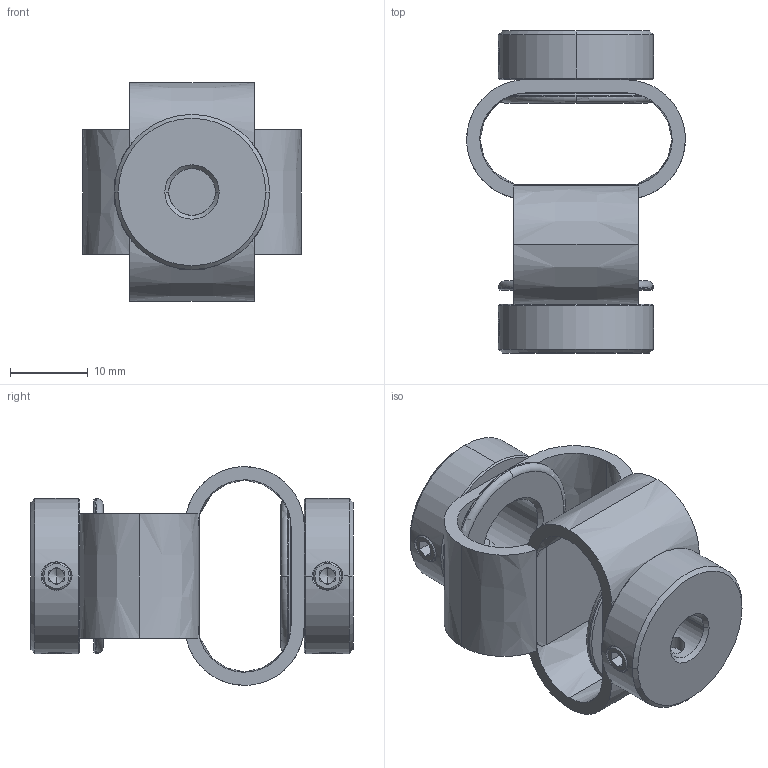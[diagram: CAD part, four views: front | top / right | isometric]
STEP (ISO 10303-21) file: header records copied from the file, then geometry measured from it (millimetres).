
FILE_DESCRIPTION (( 'STEP AP203' ), '1' );
FILE_NAME ('LS-D-D27L40-6-10.STEP', '2021-10-28T06:31:15', ( '' ), ( '' ), 'SwSTEP 2.0', 'SolidWorks 2018', '' );
FILE_SCHEMA (( 'CONFIG_CONTROL_DESIGN' ));
Length unit declared in the file: millimetre
Products named in the file (1): LS-D-D27L40-6-10
Bounding box: 28.2 x 41.54 x 28.2 mm (x, y, z)
Volume: 6874.1 mm3; surface area: 6682.2 mm2
Topology: 1 solids, 1 shells, 202 faces, 520 edges, 324 vertices
Faces by surface type: plane 86, cone 66, cylinder 30, bspline 16, torus 4
Entity records: 8071 total; most frequent: CARTESIAN_POINT 3259, ORIENTED_EDGE 1024, DIRECTION 930, EDGE_CURVE 512, AXIS2_PLACEMENT_3D 365, VERTEX_POINT 324, EDGE_LOOP 230, ADVANCED_FACE 202
